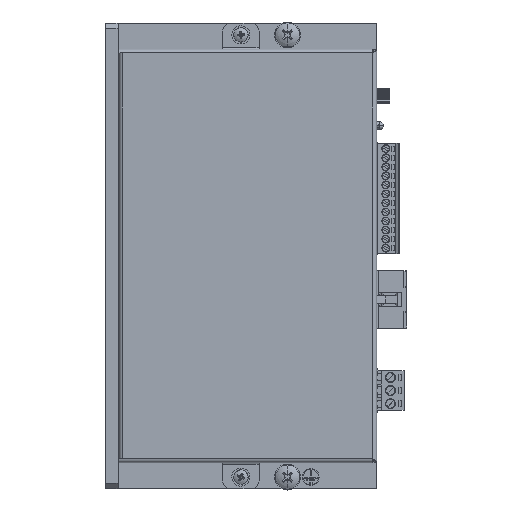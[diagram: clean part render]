
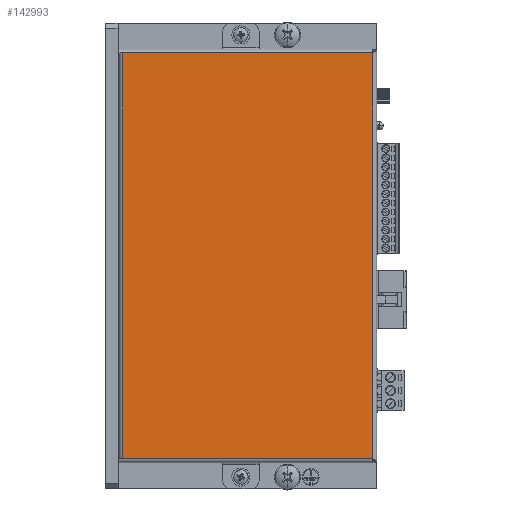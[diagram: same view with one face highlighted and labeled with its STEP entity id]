
A CAD part, top view. The second image highlights one B-rep face of the part: STEP entity #142993.
In plain terms, the highlighted planar face has unit normal (0, 0, 1) as drawn and (0, 1, 0) by its records, which use the part's own axes.
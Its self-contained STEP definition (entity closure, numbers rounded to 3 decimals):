
#440 = VERTEX_POINT ( 'NONE', #168052 ) ;
#9451 = CARTESIAN_POINT ( 'NONE',  ( -78.5, 0., -48.35 ) ) ;
#14578 = CARTESIAN_POINT ( 'NONE',  ( -78.5, 0., 48.35 ) ) ;
#24885 = ORIENTED_EDGE ( 'NONE', *, *, #113768, .T. ) ;
#25708 = DIRECTION ( 'NONE',  ( 1., 0., 0. ) ) ;
#28977 = CARTESIAN_POINT ( 'NONE',  ( 78.5, 0., 48.35 ) ) ;
#32595 = VERTEX_POINT ( 'NONE', #14578 ) ;
#36258 = DIRECTION ( 'NONE',  ( 0., 1., 0. ) ) ;
#39994 = DIRECTION ( 'NONE',  ( -1., 0., 0. ) ) ;
#40645 = VERTEX_POINT ( 'NONE', #9451 ) ;
#43482 = ORIENTED_EDGE ( 'NONE', *, *, #165646, .T. ) ;
#50530 = VECTOR ( 'NONE', #25708, 1000. ) ;
#50772 = CARTESIAN_POINT ( 'NONE',  ( 0., 0., -48.35 ) ) ;
#63126 = FACE_OUTER_BOUND ( 'NONE', #162036, .T. ) ;
#69283 = DIRECTION ( 'NONE',  ( 0., 0., -1. ) ) ;
#72692 = AXIS2_PLACEMENT_3D ( 'NONE', #171990, #36258, #172866 ) ;
#80047 = EDGE_CURVE ( 'NONE', #32595, #99343, #91840, .T. ) ;
#81131 = LINE ( 'NONE', #50772, #168890 ) ;
#88566 = LINE ( 'NONE', #143837, #138533 ) ;
#91840 = LINE ( 'NONE', #159650, #50530 ) ;
#99343 = VERTEX_POINT ( 'NONE', #28977 ) ;
#113768 = EDGE_CURVE ( 'NONE', #440, #40645, #81131, .T. ) ;
#114537 = ORIENTED_EDGE ( 'NONE', *, *, #140645, .T. ) ;
#117601 = PLANE ( 'NONE',  #72692 ) ;
#138533 = VECTOR ( 'NONE', #140341, 1000. ) ;
#140341 = DIRECTION ( 'NONE',  ( 0., 0., 1. ) ) ;
#140645 = EDGE_CURVE ( 'NONE', #40645, #32595, #88566, .T. ) ;
#142993 = ADVANCED_FACE ( 'NONE', ( #63126 ), #117601, .T. ) ;
#143796 = ORIENTED_EDGE ( 'NONE', *, *, #80047, .T. ) ;
#143837 = CARTESIAN_POINT ( 'NONE',  ( -78.5, 0., -48.35 ) ) ;
#148699 = CARTESIAN_POINT ( 'NONE',  ( 78.5, 0., 49.85 ) ) ;
#159650 = CARTESIAN_POINT ( 'NONE',  ( -78.5, 0., 48.35 ) ) ;
#161003 = VECTOR ( 'NONE', #69283, 1000. ) ;
#162036 = EDGE_LOOP ( 'NONE', ( #114537, #143796, #43482, #24885 ) ) ;
#162997 = LINE ( 'NONE', #148699, #161003 ) ;
#165646 = EDGE_CURVE ( 'NONE', #99343, #440, #162997, .T. ) ;
#168052 = CARTESIAN_POINT ( 'NONE',  ( 78.5, 0., -48.35 ) ) ;
#168890 = VECTOR ( 'NONE', #39994, 1000. ) ;
#171990 = CARTESIAN_POINT ( 'NONE',  ( 0., 0., 0. ) ) ;
#172866 = DIRECTION ( 'NONE',  ( 0., 0., 1. ) ) ;
